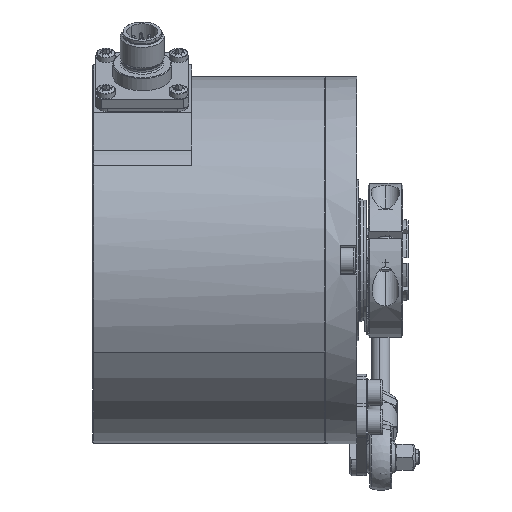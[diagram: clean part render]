
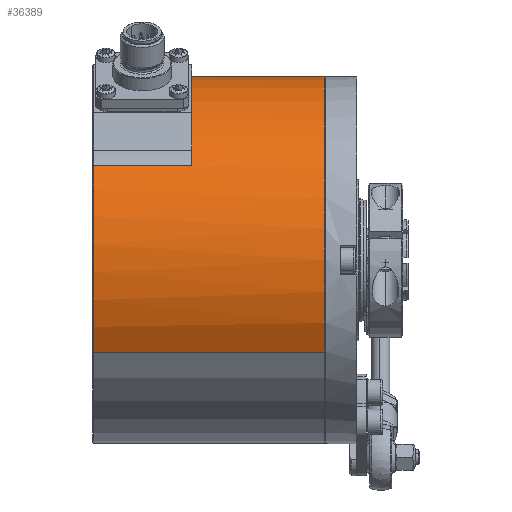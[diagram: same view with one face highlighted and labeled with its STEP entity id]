
A CAD part, left-side view. The second image highlights one B-rep face of the part: STEP entity #36389.
In plain terms, the highlighted cylindrical face has radius 50 mm (diameter 100 mm), a partial arc.
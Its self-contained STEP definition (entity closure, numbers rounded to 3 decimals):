
#767 = EDGE_CURVE ( 'NONE', #11320, #11321, #12697, .T. ) ;
#1999 = AXIS2_PLACEMENT_3D ( 'NONE', #30604, #30606, #30608 ) ;
#10365 = VERTEX_POINT ( 'NONE', #28041 ) ;
#10366 = VERTEX_POINT ( 'NONE', #28042 ) ;
#10369 = VERTEX_POINT ( 'NONE', #28045 ) ;
#10371 = VERTEX_POINT ( 'NONE', #28047 ) ;
#10372 = VERTEX_POINT ( 'NONE', #28048 ) ;
#10550 = EDGE_LOOP ( 'NONE', ( #11049, #11050, #11051, #11052, #11053, #11054, #11055, #11056 ) ) ;
#11049 = ORIENTED_EDGE ( 'NONE', *, *, #38110, .T. ) ;
#11050 = ORIENTED_EDGE ( 'NONE', *, *, #38420, .T. ) ;
#11051 = ORIENTED_EDGE ( 'NONE', *, *, #38423, .T. ) ;
#11052 = ORIENTED_EDGE ( 'NONE', *, *, #38550, .T. ) ;
#11053 = ORIENTED_EDGE ( 'NONE', *, *, #767, .T. ) ;
#11054 = ORIENTED_EDGE ( 'NONE', *, *, #38553, .T. ) ;
#11055 = ORIENTED_EDGE ( 'NONE', *, *, #38103, .T. ) ;
#11056 = ORIENTED_EDGE ( 'NONE', *, *, #38481, .F. ) ;
#11317 = VERTEX_POINT ( 'NONE', #28113 ) ;
#11320 = VERTEX_POINT ( 'NONE', #28119 ) ;
#11321 = VERTEX_POINT ( 'NONE', #28120 ) ;
#12697 = CIRCLE ( 'NONE', #1999, 50. ) ;
#20831 = AXIS2_PLACEMENT_3D ( 'NONE', #29077, #29075, #29073 ) ;
#28041 = CARTESIAN_POINT ( 'NONE',  ( -42.764, 71.8, 25.909 ) ) ;
#28042 = CARTESIAN_POINT ( 'NONE',  ( -43.301, 71.8, -25. ) ) ;
#28045 = CARTESIAN_POINT ( 'NONE',  ( 43.301, 71.8, 25. ) ) ;
#28047 = CARTESIAN_POINT ( 'NONE',  ( -43.301, 8.7, -25. ) ) ;
#28048 = CARTESIAN_POINT ( 'NONE',  ( 43.301, 8.7, 25. ) ) ;
#28113 = CARTESIAN_POINT ( 'NONE',  ( -1.056, 71.8, 49.989 ) ) ;
#28119 = CARTESIAN_POINT ( 'NONE',  ( -1.056, 45., 49.989 ) ) ;
#28120 = CARTESIAN_POINT ( 'NONE',  ( -42.764, 45., 25.909 ) ) ;
#29073 = DIRECTION ( 'NONE',  ( -0.866, 0., -0.5 ) ) ;
#29075 = DIRECTION ( 'NONE',  ( 0., 1., 0. ) ) ;
#29077 = CARTESIAN_POINT ( 'NONE',  ( 0., 58.5, 0. ) ) ;
#29912 = FACE_OUTER_BOUND ( 'NONE', #10550, .T. ) ;
#29927 = CYLINDRICAL_SURFACE ( 'NONE', #20831, 50. ) ;
#30604 = CARTESIAN_POINT ( 'NONE',  ( 0., 45., 0. ) ) ;
#30606 = DIRECTION ( 'NONE',  ( 0., -1., 0. ) ) ;
#30608 = DIRECTION ( 'NONE',  ( 0.866, 0., 0.5 ) ) ;
#35881 = AXIS2_PLACEMENT_3D ( 'NONE', #40082, #40083, #40084 ) ;
#35885 = AXIS2_PLACEMENT_3D ( 'NONE', #40098, #40099, #40100 ) ;
#36057 = AXIS2_PLACEMENT_3D ( 'NONE', #42026, #42027, #42028 ) ;
#36389 = ADVANCED_FACE ( 'NONE', ( #29912 ), #29927, .T. ) ;
#38103 = EDGE_CURVE ( 'NONE', #10365, #10366, #40700, .T. ) ;
#38110 = EDGE_CURVE ( 'NONE', #10371, #10372, #40709, .T. ) ;
#38420 = EDGE_CURVE ( 'NONE', #10372, #10369, #41155, .T. ) ;
#38423 = EDGE_CURVE ( 'NONE', #10369, #11317, #41161, .T. ) ;
#38481 = EDGE_CURVE ( 'NONE', #10371, #10366, #41242, .T. ) ;
#38550 = EDGE_CURVE ( 'NONE', #11317, #11320, #41311, .T. ) ;
#38553 = EDGE_CURVE ( 'NONE', #11321, #10365, #41312, .T. ) ;
#40082 = CARTESIAN_POINT ( 'NONE',  ( 0., 71.8, 0. ) ) ;
#40083 = DIRECTION ( 'NONE',  ( 0., -1., 0. ) ) ;
#40084 = DIRECTION ( 'NONE',  ( 0.866, 0., 0.5 ) ) ;
#40098 = CARTESIAN_POINT ( 'NONE',  ( 0., 8.7, 0. ) ) ;
#40099 = DIRECTION ( 'NONE',  ( 0., 1., 0. ) ) ;
#40100 = DIRECTION ( 'NONE',  ( -0.866, 0., -0.5 ) ) ;
#40700 = CIRCLE ( 'NONE', #35881, 50. ) ;
#40709 = CIRCLE ( 'NONE', #35885, 50. ) ;
#41155 = LINE ( 'NONE', #42015, #41158 ) ;
#41158 = VECTOR ( 'NONE', #42016, 1000. ) ;
#41161 = CIRCLE ( 'NONE', #36057, 50. ) ;
#41242 = LINE ( 'NONE', #42159, #41244 ) ;
#41244 = VECTOR ( 'NONE', #42167, 1000. ) ;
#41311 = LINE ( 'NONE', #42514, #41313 ) ;
#41312 = LINE ( 'NONE', #42531, #41316 ) ;
#41313 = VECTOR ( 'NONE', #42521, 1000. ) ;
#41316 = VECTOR ( 'NONE', #42530, 1000. ) ;
#42015 = CARTESIAN_POINT ( 'NONE',  ( 43.301, 58.5, 25. ) ) ;
#42016 = DIRECTION ( 'NONE',  ( 0., 1., 0. ) ) ;
#42026 = CARTESIAN_POINT ( 'NONE',  ( 0., 71.8, 0. ) ) ;
#42027 = DIRECTION ( 'NONE',  ( 0., -1., 0. ) ) ;
#42028 = DIRECTION ( 'NONE',  ( 0.866, 0., 0.5 ) ) ;
#42159 = CARTESIAN_POINT ( 'NONE',  ( -43.301, 58.5, -25. ) ) ;
#42167 = DIRECTION ( 'NONE',  ( 0., 1., 0. ) ) ;
#42514 = CARTESIAN_POINT ( 'NONE',  ( -1.056, 58.5, 49.989 ) ) ;
#42521 = DIRECTION ( 'NONE',  ( 0., -1., 0. ) ) ;
#42530 = DIRECTION ( 'NONE',  ( 0., 1., 0. ) ) ;
#42531 = CARTESIAN_POINT ( 'NONE',  ( -42.764, 58.5, 25.909 ) ) ;
